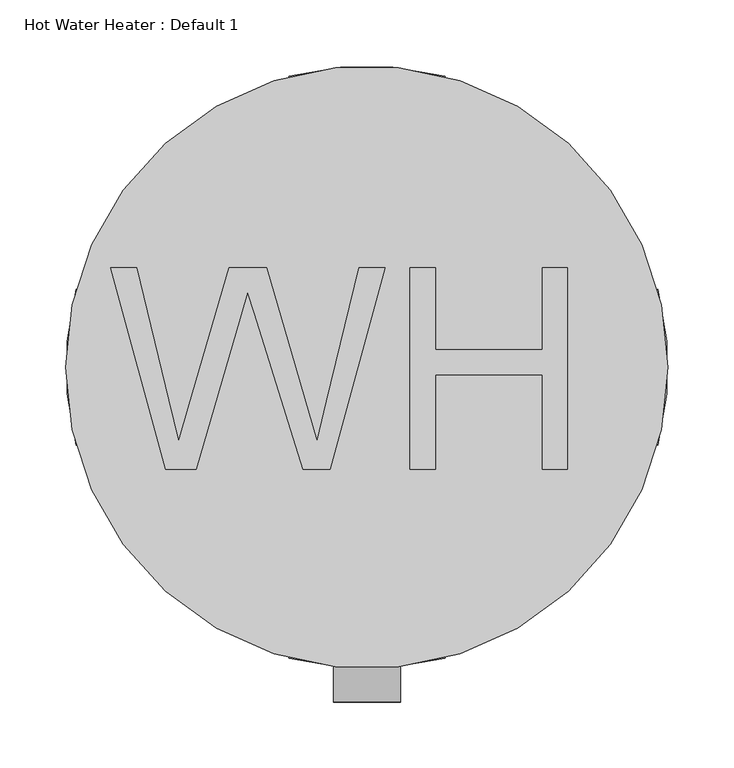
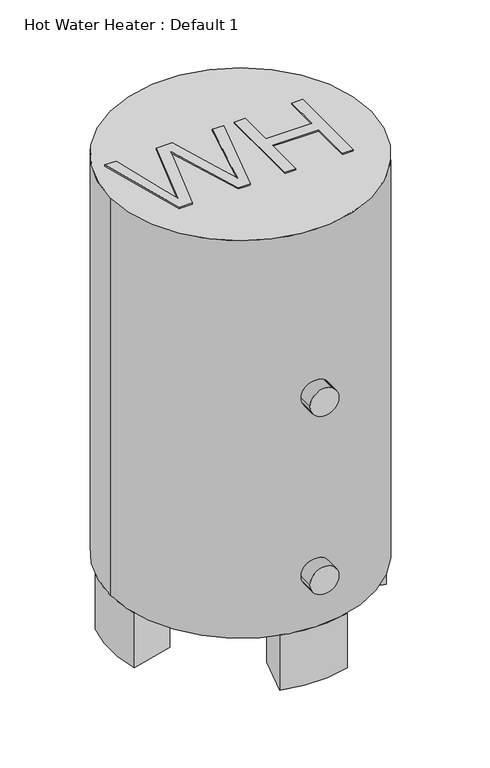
"""IFC4 building model written with IfcOpenShell, lengths in millimetres: proxy geometry, Hot Water Heater : Default 1."""

from ifc_helpers import new_model, si_unit, point, frame, frame_2d, origin, origin_with_axes, origin_2d, place, context, project, spatial, polyline, circle_curve, trimmed, segment, composite_curve, outline, extrude, source, transform, mapped, element, save


def hot_water_heater_default_1_dcdfe45b(model_context):
    return source(origin(), model_context, "Body", "SweptSolid", [
        extrude(outline(polyline([(-152.7755426, -77.559922), (-194.5254402, 75.5354947), (-174.7904841, 75.5354947), (-150.5703108, -25.0828798), (-143.0949486, -56.1430095), (-135.0963111, -28.6710536), (-104.7463408, 75.5354947), (-76.3025879, 75.5354947), (-54.2502696, -0.0030398), (-37.8418497, -56.1430095), (-30.5907484, -25.9799232), (-6.1463142, 75.5354947), (13.5886419, 75.5354947), (-28.1986325, -77.559922), (-48.643748, -77.559922), (-85.3477761, 40.5507998), (-90.4683991, 57.0339733), (-96.224428, 37.1868869), (-129.6766736, -77.559922), (-152.7755426, -77.559922)])), frame((0.0, 0.0, 838.2), z_axis=(0.0, 0.0, 1.0), x_axis=(1.0, 0.0, 0.0)), (0.0, 0.0, 1.0), 2.5796875),
        extrude(outline(polyline([(32.725569, -77.559922), (32.725569, 75.5354947), (51.862496, 75.5354947), (51.862496, 13.3404816), (133.1944361, 13.3404816), (133.1944361, 75.5354947), (152.3313632, 75.5354947), (152.3313632, -77.559922), (133.1944361, -77.559922), (133.1944361, -5.7964455), (51.862496, -5.7964455), (51.862496, -77.559922), (32.725569, -77.559922)])), frame((0.0, 0.0, 838.2), z_axis=(0.0, 0.0, 1.0), x_axis=(1.0, 0.0, 0.0)), (0.0, 0.0, 1.0), 2.5796875),
        extrude(outline(composite_curve([segment(polyline([(-39.4440225, 147.2070959), (-59.1660337, 220.8106439)]), True, "CONTINUOUS"), segment(trimmed(circle_curve(origin_2d(), 228.6), [point((-59.1660337, 220.8106439))], [point((59.1660337, 220.8106439))], False, "CARTESIAN"), True, "CONTINUOUS"), segment(polyline([(59.1660337, 220.8106439), (39.4440225, 147.2070959)]), True, "CONTINUOUS"), segment(trimmed(circle_curve(origin_2d(), 152.4), [point((39.4440225, 147.2070959))], [point((-39.4440225, 147.2070959))], True, "CARTESIAN"), True, "CONTINUOUS")], self_intersect=False)), origin_with_axes(), (0.0, 0.0, 1.0), 101.6),
        extrude(outline(composite_curve([segment(polyline([(147.2070959, 39.4440225), (220.8106439, 59.1660337)]), True, "CONTINUOUS"), segment(trimmed(circle_curve(origin_2d(), 228.6), [point((220.8106439, 59.1660337))], [point((220.8106439, -59.1660337))], False, "CARTESIAN"), True, "CONTINUOUS"), segment(polyline([(220.8106439, -59.1660337), (147.2070959, -39.4440225)]), True, "CONTINUOUS"), segment(trimmed(circle_curve(origin_2d(), 152.4), [point((147.2070959, -39.4440225))], [point((147.2070959, 39.4440225))], True, "CARTESIAN"), True, "CONTINUOUS")], self_intersect=False)), origin_with_axes(), (0.0, 0.0, 1.0), 101.6),
        extrude(outline(composite_curve([segment(polyline([(-220.8106439, 59.1660337), (-147.2070959, 39.4440225)]), True, "CONTINUOUS"), segment(trimmed(circle_curve(origin_2d(), 152.4), [point((-147.2070959, 39.4440225))], [point((-147.2070959, -39.4440225))], True, "CARTESIAN"), True, "CONTINUOUS"), segment(polyline([(-147.2070959, -39.4440225), (-220.8106439, -59.1660337)]), True, "CONTINUOUS"), segment(trimmed(circle_curve(origin_2d(), 228.6), [point((-220.8106439, -59.1660337))], [point((-220.8106439, 59.1660337))], False, "CARTESIAN"), True, "CONTINUOUS")], self_intersect=False)), origin_with_axes(), (0.0, 0.0, 1.0), 101.6),
        extrude(outline(composite_curve([segment(polyline([(-59.1660337, -220.8106439), (-39.4440225, -147.2070959)]), True, "CONTINUOUS"), segment(trimmed(circle_curve(origin_2d(), 152.4), [point((-39.4440225, -147.2070959))], [point((39.4440225, -147.2070959))], True, "CARTESIAN"), True, "CONTINUOUS"), segment(polyline([(39.4440225, -147.2070959), (59.1660337, -220.8106439)]), True, "CONTINUOUS"), segment(trimmed(circle_curve(origin_2d(), 228.6), [point((59.1660337, -220.8106439))], [point((-59.1660337, -220.8106439))], False, "CARTESIAN"), True, "CONTINUOUS")], self_intersect=False)), origin_with_axes(), (0.0, 0.0, 1.0), 101.6),
        extrude(outline(composite_curve([segment(trimmed(circle_curve(origin_2d(), 228.6), [point((228.6, 0.0))], [point((-228.6, 0.0))], False, "CARTESIAN"), True, "CONTINUOUS"), segment(trimmed(circle_curve(origin_2d(), 228.6), [point((-228.6, 0.0))], [point((228.6, 0.0))], False, "CARTESIAN"), True, "CONTINUOUS")], self_intersect=False)), frame((0.0, 0.0, 101.6), z_axis=(0.0, 0.0, 1.0), x_axis=(1.0, 0.0, 0.0)), (0.0, 0.0, 1.0), 736.6),
        extrude(outline(composite_curve([segment(trimmed(circle_curve(origin_2d(), 228.6), [point((-228.6, 0.0))], [point((228.6, 0.0))], False, "CARTESIAN"), True, "CONTINUOUS"), segment(trimmed(circle_curve(origin_2d(), 228.6), [point((228.6, 0.0))], [point((-228.6, 0.0))], False, "CARTESIAN"), True, "CONTINUOUS")], self_intersect=False)), frame((0.0, 0.0, 101.6), z_axis=(0.0, 0.0, 1.0), x_axis=(1.0, 0.0, 0.0)), (0.0, 0.0, 1.0), 736.6),
        extrude(outline(composite_curve([segment(trimmed(circle_curve(frame_2d((203.2, 0.0)), 25.4), [point((203.2, 25.4))], [point((203.2, -25.4))], False, "CARTESIAN"), True, "CONTINUOUS"), segment(trimmed(circle_curve(frame_2d((203.2, 0.0)), 25.4), [point((203.2, -25.4))], [point((203.2, 25.4))], False, "CARTESIAN"), True, "CONTINUOUS")], self_intersect=False)), frame((0.0, -254.0, 0.0), z_axis=(0.0, 1.0, 0.0), x_axis=(0.0, 0.0, 1.0)), (0.0, 0.0, 1.0), 50.8),
        extrude(outline(composite_curve([segment(trimmed(circle_curve(frame_2d((533.4, 0.0)), 25.4), [point((533.4, 25.4))], [point((533.4, -25.4))], False, "CARTESIAN"), True, "CONTINUOUS"), segment(trimmed(circle_curve(frame_2d((533.4, 0.0)), 25.4), [point((533.4, -25.4))], [point((533.4, 25.4))], False, "CARTESIAN"), True, "CONTINUOUS")], self_intersect=False)), frame((0.0, -254.0, 0.0), z_axis=(0.0, 1.0, 0.0), x_axis=(0.0, 0.0, 1.0)), (0.0, 0.0, 1.0), 50.8),
        extrude(outline(composite_curve([segment(trimmed(circle_curve(frame_2d((533.4, 0.0)), 25.4), [point((533.4, -25.4))], [point((533.4, 25.4))], False, "CARTESIAN"), True, "CONTINUOUS"), segment(trimmed(circle_curve(frame_2d((533.4, 0.0)), 25.4), [point((533.4, 25.4))], [point((533.4, -25.4))], False, "CARTESIAN"), True, "CONTINUOUS")], self_intersect=False)), frame((0.0, -254.0, 0.0), z_axis=(0.0, 1.0, 0.0), x_axis=(0.0, 0.0, 1.0)), (0.0, 0.0, 1.0), 50.8),
        extrude(outline(composite_curve([segment(trimmed(circle_curve(frame_2d((203.2, 0.0)), 25.4), [point((203.2, -25.4))], [point((203.2, 25.4))], False, "CARTESIAN"), True, "CONTINUOUS"), segment(trimmed(circle_curve(frame_2d((203.2, 0.0)), 25.4), [point((203.2, 25.4))], [point((203.2, -25.4))], False, "CARTESIAN"), True, "CONTINUOUS")], self_intersect=False)), frame((0.0, -254.0, 0.0), z_axis=(0.0, 1.0, 0.0), x_axis=(0.0, 0.0, 1.0)), (0.0, 0.0, 1.0), 50.8),
    ])


if __name__ == "__main__":
    model = new_model("IFC4")
    model_context = context("Model", 3, world=origin())
    ifc_project = project(units=[si_unit("LENGTHUNIT", "METRE", prefix="MILLI")], contexts=[model_context])
    site = spatial("IfcSite", under=ifc_project)
    building = spatial("IfcBuilding", under=site)
    placement = place(None, origin())
    hot_water_heater_default_1_shape = hot_water_heater_default_1_dcdfe45b(model_context)
    element("IfcBuildingElementProxy", 1, Name="Hot Water Heater : Default 1", ObjectType="Hot Water Heater : Default 1", at=placement, inside=building, context=model_context, shape_type="MappedRepresentation", body=[
        mapped(hot_water_heater_default_1_shape, transform((0.0, 0.0, 0.0), x_axis=(1.0, 0.0, 0.0), y_axis=(0.0, 1.0, 0.0), z_axis=(0.0, 0.0, 1.0))),
    ])
    save(model, "model.ifc")
